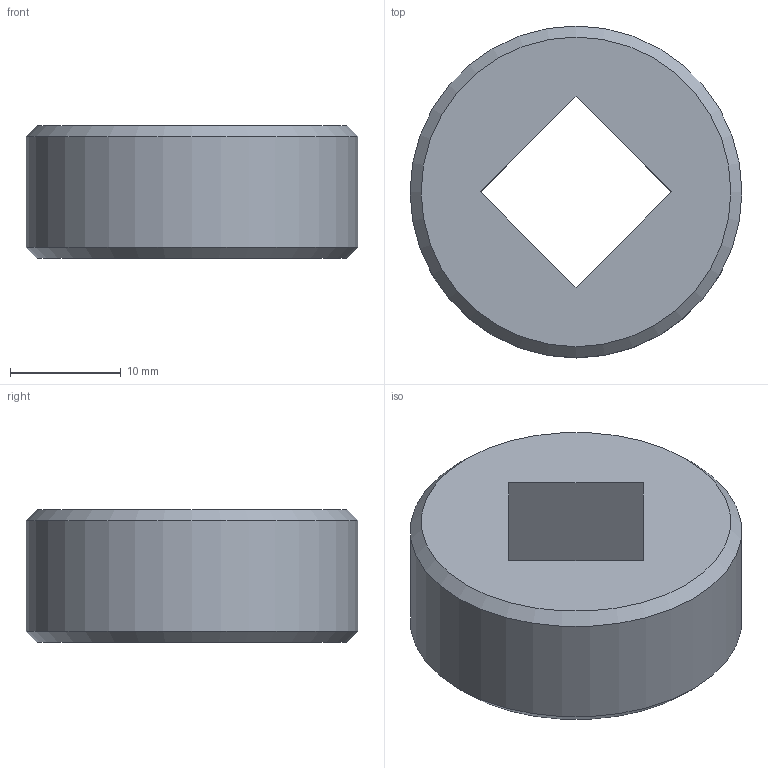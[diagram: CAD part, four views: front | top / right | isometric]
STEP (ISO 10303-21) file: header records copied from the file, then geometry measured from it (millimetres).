
FILE_DESCRIPTION(/* description */ ('crank handle1'),/* implementation_level */ '2;1');
FILE_NAME(/* name */ 'C:\Users\Apardo\Documents\Proyectos\Dietrich\Proyecto 1\PLATE ROLLING MACHINE\STEP\2.1 crank handle1.stp',/* time_stamp */ '2020-11-03T20:43:05-04:00',/* author */ ('Apardo'),/* organization */ ('21'),/* preprocessor_version */ 'ST-DEVELOPER v18',/* originating_system */ 'Autodesk Inventor 2020',/* authorisation */ '');
FILE_SCHEMA (('AUTOMOTIVE_DESIGN { 1 0 10303 214 3 1 1 }'));
Length unit declared in the file: millimetre
Products named in the file (1): crank handle1
Bounding box: 30 x 30 x 12 mm (x, y, z)
Volume: 6604.1 mm3; surface area: 2719.6 mm2
Topology: 1 solids, 1 shells, 9 faces, 21 edges, 14 vertices
Faces by surface type: plane 6, cone 2, cylinder 1
Full cylindrical faces by diameter (mm): 30 x1
Entity records: 306 total; most frequent: DIRECTION 47, CARTESIAN_POINT 45, ORIENTED_EDGE 42, EDGE_CURVE 21, AXIS2_PLACEMENT_3D 16, LINE 15, VECTOR 15, VERTEX_POINT 14
